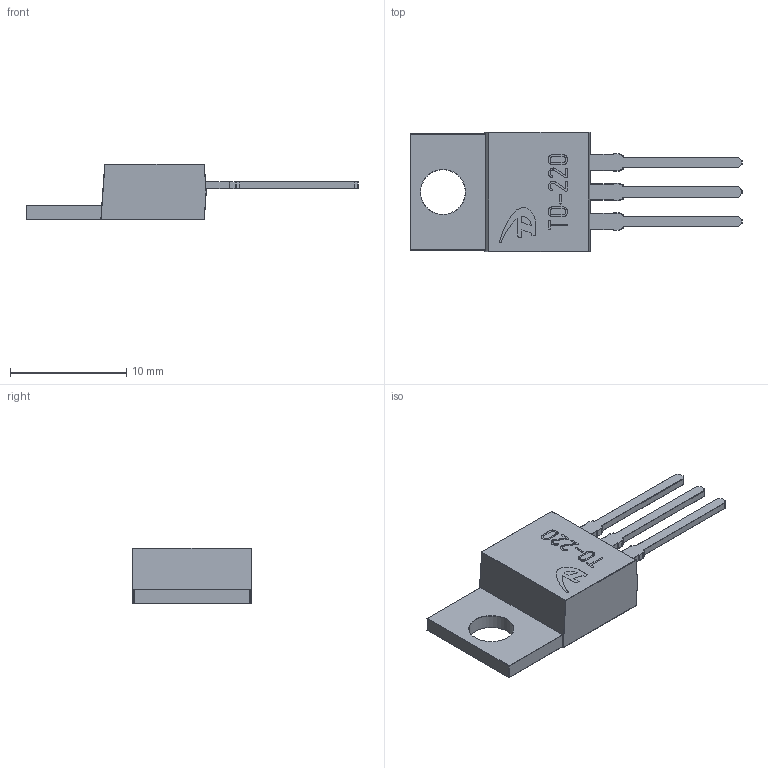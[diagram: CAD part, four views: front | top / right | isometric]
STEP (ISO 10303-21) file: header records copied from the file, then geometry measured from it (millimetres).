
FILE_DESCRIPTION(('STEP AP242'), '1');
FILE_NAME('TO-220', '', ('UNSPECIFIED'), ('UNSPECIFIED'), 'C3D Converter', 'C3D Toolkit', '');
FILE_SCHEMA(('AP242_MANAGED_MODEL_BASED_3D_ENGINEERING_MIM_LF { 1 0 10303 442 1 1 4 }'));
Length unit declared in the file: millimetre
Bounding box: 28.55 x 10.25 x 4.8 mm (x, y, z)
Volume: 525.3 mm3; surface area: 633.5 mm2
Topology: 4 solids, 4 shells, 567 faces, 1374 edges, 729 vertices
Faces by surface type: cylinder 204, plane 129, extrusion 100, sphere 96, torus 38
Full cylindrical faces by diameter (mm): 3.84 x1, 3.88 x1
Entity records: 20453 total; most frequent: CARTESIAN_POINT 3460, ORIENTED_EDGE 2544, DIRECTION 2539, EDGE_CURVE 1272, AXIS2_PLACEMENT_3D 905, VECTOR 729, VERTEX_POINT 729, LINE 629
